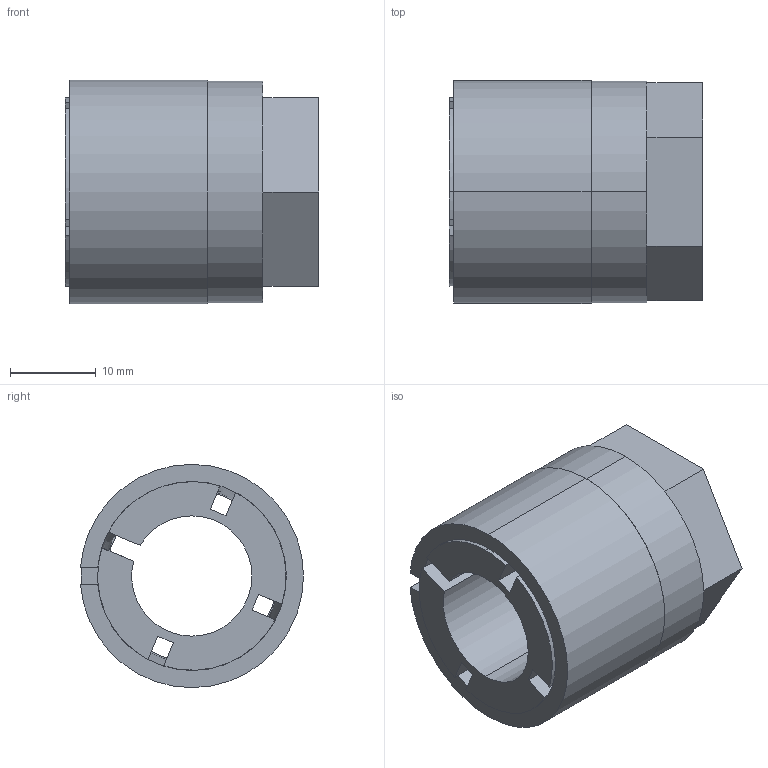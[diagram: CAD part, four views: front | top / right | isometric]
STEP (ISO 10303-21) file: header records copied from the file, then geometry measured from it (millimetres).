
FILE_DESCRIPTION (( 'STEP AP203' ), '1' );
FILE_NAME ('KBS 56 - 14 x 26.STEP', '2015-07-07T20:21:04', ( '' ), ( '' ), 'SwSTEP 2.0', 'SolidWorks 2010', '' );
FILE_SCHEMA (( 'CONFIG_CONTROL_DESIGN' ));
Length unit declared in the file: millimetre
Products named in the file (1): KBS 56 - 14 x 26
Bounding box: 29.5 x 25.96 x 26 mm (x, y, z)
Volume: 9458 mm3; surface area: 8959.3 mm2
Topology: 3 solids, 3 shells, 53 faces, 138 edges, 92 vertices
Faces by surface type: plane 30, cylinder 15, cone 8
Entity records: 1731 total; most frequent: CARTESIAN_POINT 320, DIRECTION 282, ORIENTED_EDGE 276, EDGE_CURVE 138, AXIS2_PLACEMENT_3D 100, VERTEX_POINT 92, VECTOR 82, LINE 82
